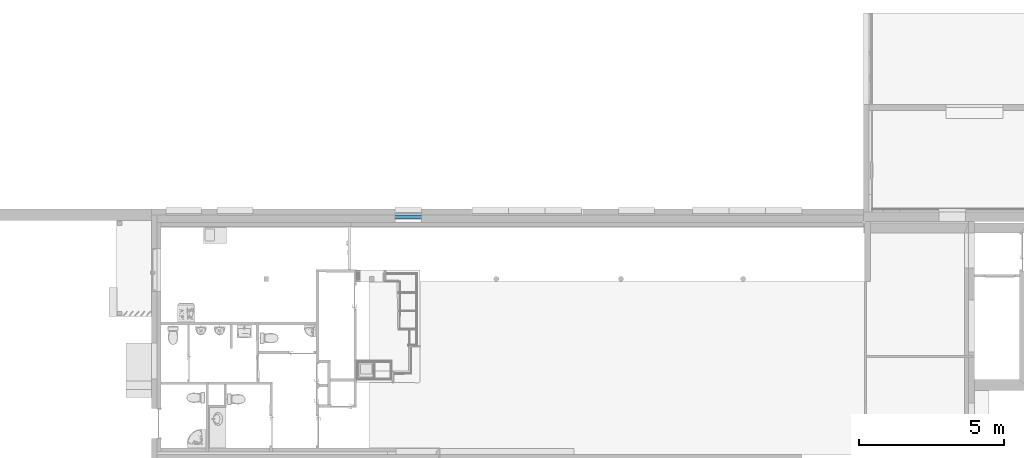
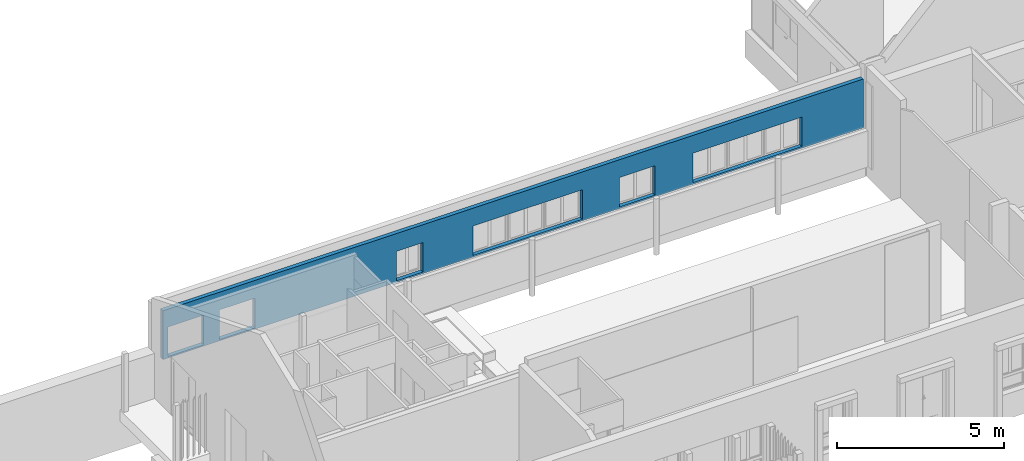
# One storey, part 7 of 34: 1 wall, 6 openings.
"""IFC2X3 building model written with IfcOpenShell, lengths in metres."""

from ifc_helpers import new_model, entity, si_unit, converted_unit, derived_unit, money_unit, direction, frame, origin_with_axes, origin_2d_with_axis, place, context, subcontext, project, spatial, polyline, rectangle, outline, extrude, material, layer, layer_set, layer_usage, type_object, element, save


model = new_model("IFC2X3")

# Units and contexts
model_context = context("Model", 3, precision=1e-05, world=origin_with_axes(), true_north=direction((0.0, 1.0)))
body_context = subcontext(model_context, "Body", "Model", "MODEL_VIEW")
ifc_project = project(units=[si_unit("LENGTHUNIT", "METRE"), si_unit("AREAUNIT", "SQUARE_METRE"), si_unit("VOLUMEUNIT", "CUBIC_METRE"), converted_unit("PLANEANGLEUNIT", "DEGREE", entity("IfcPlaneAngleMeasure", 0.0174532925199), si_unit("PLANEANGLEUNIT", "RADIAN"), dimensions=[0, 0, 0, 0, 0, 0, 0]), money_unit("CHF"), converted_unit("TIMEUNIT", "Year", entity("IfcTimeMeasure", 31556926.0), si_unit("TIMEUNIT", "SECOND"), dimensions=[0, 0, 1, 0, 0, 0, 0]), si_unit("MASSUNIT", "GRAM", prefix="KILO"), si_unit("THERMODYNAMICTEMPERATUREUNIT", "DEGREE_CELSIUS"), si_unit("LUMINOUSINTENSITYUNIT", "LUMEN"), si_unit("ENERGYUNIT", "JOULE", prefix="MEGA"), derived_unit("THERMALCONDUCTANCEUNIT", [(si_unit("POWERUNIT", "WATT"), 1), (si_unit("LENGTHUNIT", "METRE"), -1), (si_unit("THERMODYNAMICTEMPERATUREUNIT", "KELVIN"), -1)]), derived_unit("SPECIFICHEATCAPACITYUNIT", [(si_unit("ENERGYUNIT", "JOULE"), 1), (si_unit("MASSUNIT", "GRAM", prefix="KILO"), -1), (si_unit("THERMODYNAMICTEMPERATUREUNIT", "KELVIN"), -1)]), derived_unit("MASSDENSITYUNIT", [(si_unit("MASSUNIT", "GRAM", prefix="KILO"), 1), (si_unit("VOLUMEUNIT", "CUBIC_METRE"), -1)])], contexts=[model_context])

# Site, building, storey
site_placement = place(None, origin_with_axes())
site = spatial("IfcSite", under=ifc_project, at=site_placement, Name="Site", CompositionType="ELEMENT")
building_placement = place(site_placement, origin_with_axes())
building = spatial("IfcBuilding", under=site, at=building_placement, Name="Bâtiment", CompositionType="ELEMENT")
storey_placement = place(building_placement, origin_with_axes())
storey = spatial("IfcBuildingStorey", under=building, at=storey_placement, Name="RDC", CompositionType="ELEMENT", Elevation=-5.32907e-15)

# Wall, openings
ifc_material_1 = material(Name="Isolation laine de pierre 378182646")
ifc_layer_1 = layer(ifc_material_1, 0.12, ventilated="UNKNOWN")
ifc_material_2 = material(Name="Plâtre lissé 291446788")
ifc_layer_2 = layer(ifc_material_2, 0.02, ventilated="UNKNOWN")
ifc_layer_set = layer_set([ifc_layer_1, ifc_layer_2], Name="DOUBLAGE ISO + BA13 14 CM")
ifc_layer_usage = layer_usage(ifc_layer_set, "AXIS2", "NEGATIVE", 0.0)
wall_type = type_object("IfcWallType", Name="DOUBLAGE ISO + BA13 14 CM 140", PredefinedType="NOTDEFINED")
wall_placement = place(storey_placement, frame((1667.73729001, 190.50004191, 1.71817564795), z_axis=(0.0, 0.0, 1.0), x_axis=(1.0, 0.0, 0.0)))
wall = element("IfcWallStandardCase", 1, at=wall_placement, inside=storey, type_object=wall_type, material=ifc_layer_usage, Name="Mur-006", context=body_context, shape_type="SweptSolid", body=[
    extrude(outline(polyline([(0.0, -0.14), (24.2, -0.14), (24.2, 0.0), (0.0, 0.0), (0.0, -0.14)])), origin_with_axes(), (0.0, 0.0, 1.0), 1.78182443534),
])
opening_1_placement = place(wall_placement, frame((12.6049202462, 0.0, 0.0518243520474), z_axis=(0.0, 0.0, 1.0), x_axis=(1.0, 0.0, 0.0)))
element("IfcOpeningElement", 2, at=opening_1_placement, cuts=wall, Name="Fen-004", context=body_context, shape_type="SweptSolid", body=[
    extrude(rectangle(XDim=3.771, YDim=1.08, at=origin_2d_with_axis()), frame((0.0, 0.01, 0.54), z_axis=(0.0, 1.0, 0.0), x_axis=(1.0, 0.0, 0.0)), (0.0, 0.0, -1.0), 0.29),
    extrude(rectangle(XDim=3.771, YDim=1.08, at=origin_2d_with_axis()), frame((0.0, 0.01, 0.54), z_axis=(0.0, -1.0, 0.0), x_axis=(1.0, 0.0, 0.0)), (0.0, 0.0, -1.0), 0.29),
])
opening_2_placement = place(wall_placement, frame((16.385, 0.0, 0.0518243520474), z_axis=(0.0, 0.0, 1.0), x_axis=(1.0, 0.0, 0.0)))
element("IfcOpeningElement", 3, at=opening_2_placement, cuts=wall, Name="Fen-004", context=body_context, shape_type="SweptSolid", body=[
    extrude(rectangle(XDim=1.23, YDim=1.08, at=origin_2d_with_axis()), frame((0.0, 0.01, 0.54), z_axis=(0.0, 1.0, 0.0), x_axis=(1.0, 0.0, 0.0)), (0.0, 0.0, -1.0), 0.29),
    extrude(rectangle(XDim=1.23, YDim=1.08, at=origin_2d_with_axis()), frame((0.0, 0.01, 0.54), z_axis=(0.0, -1.0, 0.0), x_axis=(1.0, 0.0, 0.0)), (0.0, 0.0, -1.0), 0.29),
])
opening_3_placement = place(wall_placement, frame((20.195, 0.0, 0.0518243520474), z_axis=(0.0, 0.0, 1.0), x_axis=(1.0, 0.0, 0.0)))
element("IfcOpeningElement", 4, at=opening_3_placement, cuts=wall, Name="Fen-004", context=body_context, shape_type="SweptSolid", body=[
    extrude(rectangle(XDim=3.77, YDim=1.08, at=origin_2d_with_axis()), frame((0.0, 0.01, 0.54), z_axis=(0.0, 1.0, 0.0), x_axis=(1.0, 0.0, 0.0)), (0.0, 0.0, -1.0), 0.29),
    extrude(rectangle(XDim=3.77, YDim=1.08, at=origin_2d_with_axis()), frame((0.0, 0.01, 0.54), z_axis=(0.0, -1.0, 0.0), x_axis=(1.0, 0.0, 0.0)), (0.0, 0.0, -1.0), 0.29),
])
opening_4_placement = place(wall_placement, frame((2.565, 0.0, 0.0518243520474), z_axis=(0.0, 0.0, 1.0), x_axis=(1.0, 0.0, 0.0)))
element("IfcOpeningElement", 5, at=opening_4_placement, cuts=wall, Name="Fen-003", context=body_context, shape_type="SweptSolid", body=[
    extrude(rectangle(XDim=1.23, YDim=1.08, at=origin_2d_with_axis()), frame((0.0, -0.15, 0.54), z_axis=(0.0, -1.0, 0.0), x_axis=(1.0, 0.0, 0.0)), (0.0, 0.0, -1.0), 0.29),
    extrude(rectangle(XDim=1.23, YDim=1.08, at=origin_2d_with_axis()), frame((0.0, -0.15, 0.54), z_axis=(0.0, 1.0, 0.0), x_axis=(1.0, 0.0, 0.0)), (0.0, 0.0, -1.0), 0.29),
])
opening_5_placement = place(wall_placement, frame((0.795, 0.0, 0.0518243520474), z_axis=(0.0, 0.0, 1.0), x_axis=(1.0, 0.0, 0.0)))
element("IfcOpeningElement", 6, at=opening_5_placement, cuts=wall, Name="Fen-004", context=body_context, shape_type="SweptSolid", body=[
    extrude(rectangle(XDim=1.23, YDim=1.08, at=origin_2d_with_axis()), frame((0.0, -0.15, 0.54), z_axis=(0.0, -1.0, 0.0), x_axis=(1.0, 0.0, 0.0)), (0.0, 0.0, -1.0), 0.29),
    extrude(rectangle(XDim=1.23, YDim=1.08, at=origin_2d_with_axis()), frame((0.0, -0.15, 0.54), z_axis=(0.0, 1.0, 0.0), x_axis=(1.0, 0.0, 0.0)), (0.0, 0.0, -1.0), 0.29),
])
opening_6_placement = place(wall_placement, frame((8.52769470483, 0.0, 0.0518243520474), z_axis=(0.0, 0.0, 1.0), x_axis=(1.0, 0.0, 0.0)))
element("IfcOpeningElement", 7, at=opening_6_placement, cuts=wall, Name="Fen-004", context=body_context, shape_type="SweptSolid", body=[
    extrude(rectangle(XDim=0.91, YDim=1.08, at=origin_2d_with_axis()), frame((0.0, 0.0, 0.54), z_axis=(0.0, 1.0, 0.0), x_axis=(1.0, 0.0, 0.0)), (0.0, 0.0, -1.0), 0.28),
    extrude(rectangle(XDim=0.91, YDim=1.08, at=origin_2d_with_axis()), frame((0.0, 0.0, 0.54), z_axis=(0.0, -1.0, 0.0), x_axis=(1.0, 0.0, 0.0)), (0.0, 0.0, -1.0), 0.28),
])

save(model, "model.ifc")
